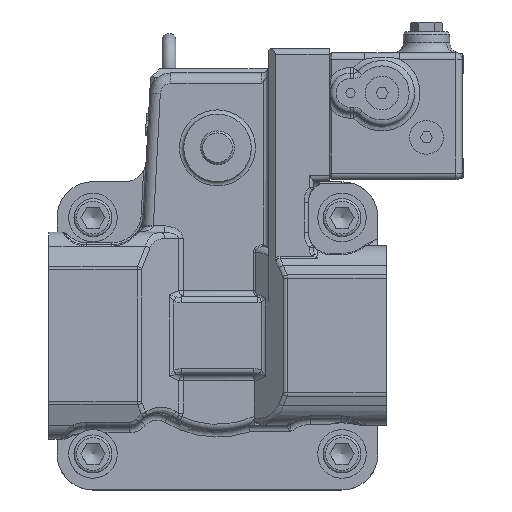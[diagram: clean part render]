
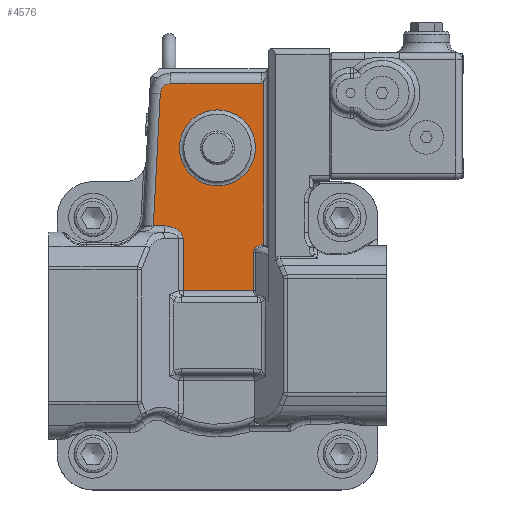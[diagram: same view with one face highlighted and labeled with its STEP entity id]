
A CAD part, top view. The second image highlights one B-rep face of the part: STEP entity #4576.
In plain terms, the highlighted planar face has unit normal (0, 0, 1).
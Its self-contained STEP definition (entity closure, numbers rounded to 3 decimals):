
#4234=CARTESIAN_POINT('',(22.,120.821,209.7));
#4235=VERTEX_POINT('',#4234);
#4251=CARTESIAN_POINT('',(22.,42.917,209.7));
#4252=VERTEX_POINT('',#4251);
#4253=CARTESIAN_POINT('',(22.,120.821,209.7));
#4254=DIRECTION('',(0.0,-1.0,0.0));
#4255=VECTOR('',#4254,77.904);
#4256=LINE('',#4253,#4255);
#4257=EDGE_CURVE('',#4235,#4252,#4256,.T.);
#4452=CARTESIAN_POINT('',(-2.261,42.265,209.7));
#4453=DIRECTION('',(0.0,0.0,1.0));
#4454=DIRECTION('',(1.0,0.0,0.0));
#4455=AXIS2_PLACEMENT_3D('',#4452,#4453,#4454);
#4456=PLANE('',#4455);
#4457=ORIENTED_EDGE('',*,*,#4257,.F.);
#4458=CARTESIAN_POINT('',(21.,119.5,209.7));
#4459=VERTEX_POINT('',#4458);
#4460=CARTESIAN_POINT('',(21.,119.5,209.7));
#4461=CARTESIAN_POINT('',(21.32,119.914,209.7));
#4462=CARTESIAN_POINT('',(21.666,120.358,209.7));
#4463=CARTESIAN_POINT('',(22.,120.821,209.7));
#4464=B_SPLINE_CURVE_WITH_KNOTS('',3,(#4460,#4461,#4462,#4463),.UNSPECIFIED.,.F.,.U.,(4,4),(0.0,0.157),.UNSPECIFIED.);
#4465=EDGE_CURVE('',#4459,#4235,#4464,.T.);
#4466=ORIENTED_EDGE('',*,*,#4465,.F.);
#4467=CARTESIAN_POINT('',(-22.115,119.5,209.7));
#4468=VERTEX_POINT('',#4467);
#4469=CARTESIAN_POINT('',(-22.115,119.5,209.7));
#4470=DIRECTION('',(1.0,0.0,0.0));
#4471=VECTOR('',#4470,43.115);
#4472=LINE('',#4469,#4471);
#4473=EDGE_CURVE('',#4468,#4459,#4472,.T.);
#4474=ORIENTED_EDGE('',*,*,#4473,.F.);
#4475=CARTESIAN_POINT('',(-27.108,114.762,209.7));
#4476=VERTEX_POINT('',#4475);
#4477=CARTESIAN_POINT('',(-22.115,114.5,209.7));
#4478=DIRECTION('',(0.,0.,-1.0));
#4479=DIRECTION('',(-0.688,0.725,0.));
#4480=AXIS2_PLACEMENT_3D('',#4477,#4478,#4479);
#4481=CIRCLE('',#4480,5.0);
#4482=EDGE_CURVE('',#4476,#4468,#4481,.T.);
#4483=ORIENTED_EDGE('',*,*,#4482,.F.);
#4484=CARTESIAN_POINT('',(-30.398,52.,209.7));
#4485=VERTEX_POINT('',#4484);
#4486=CARTESIAN_POINT('',(-30.398,52.,209.7));
#4487=DIRECTION('',(0.052,0.999,0.0));
#4488=VECTOR('',#4487,62.848);
#4489=LINE('',#4486,#4488);
#4490=EDGE_CURVE('',#4485,#4476,#4489,.T.);
#4491=ORIENTED_EDGE('',*,*,#4490,.F.);
#4492=CARTESIAN_POINT('',(-25.116,52.,209.7));
#4493=VERTEX_POINT('',#4492);
#4494=CARTESIAN_POINT('',(-25.116,52.,209.7));
#4495=DIRECTION('',(-1.0,0.0,0.0));
#4496=VECTOR('',#4495,5.282);
#4497=LINE('',#4494,#4496);
#4498=EDGE_CURVE('',#4493,#4485,#4497,.T.);
#4499=ORIENTED_EDGE('',*,*,#4498,.F.);
#4500=CARTESIAN_POINT('',(-16.318,46.,209.7));
#4501=VERTEX_POINT('',#4500);
#4502=CARTESIAN_POINT('',(-25.116,46.,209.7));
#4503=DIRECTION('',(0.0,0.0,1.0));
#4504=DIRECTION('',(1.0,0.0,0.0));
#4505=AXIS2_PLACEMENT_3D('',#4502,#4503,#4504);
#4506=ELLIPSE('',#4505,8.798,6.);
#4507=EDGE_CURVE('',#4501,#4493,#4506,.T.);
#4508=ORIENTED_EDGE('',*,*,#4507,.F.);
#4509=CARTESIAN_POINT('',(-16.318,21.354,209.7));
#4510=VERTEX_POINT('',#4509);
#4511=CARTESIAN_POINT('',(-16.318,21.354,209.7));
#4512=DIRECTION('',(0.0,1.0,0.0));
#4513=VECTOR('',#4512,24.646);
#4514=LINE('',#4511,#4513);
#4515=EDGE_CURVE('',#4510,#4501,#4514,.T.);
#4516=ORIENTED_EDGE('',*,*,#4515,.F.);
#4517=CARTESIAN_POINT('',(17.116,21.354,209.7));
#4518=VERTEX_POINT('',#4517);
#4519=CARTESIAN_POINT('',(17.116,21.354,209.7));
#4520=DIRECTION('',(-1.0,0.0,0.0));
#4521=VECTOR('',#4520,33.434);
#4522=LINE('',#4519,#4521);
#4523=EDGE_CURVE('',#4518,#4510,#4522,.T.);
#4524=ORIENTED_EDGE('',*,*,#4523,.F.);
#4525=CARTESIAN_POINT('',(17.116,39.499,209.7));
#4526=VERTEX_POINT('',#4525);
#4527=CARTESIAN_POINT('',(17.116,39.499,209.7));
#4528=DIRECTION('',(0.0,-1.0,0.0));
#4529=VECTOR('',#4528,18.145);
#4530=LINE('',#4527,#4529);
#4531=EDGE_CURVE('',#4526,#4518,#4530,.T.);
#4532=ORIENTED_EDGE('',*,*,#4531,.F.);
#4533=CARTESIAN_POINT('',(21.,43.082,209.7));
#4534=VERTEX_POINT('',#4533);
#4535=CARTESIAN_POINT('',(21.,43.082,209.7));
#4536=CARTESIAN_POINT('',(20.285,42.959,209.7));
#4537=CARTESIAN_POINT('',(19.024,42.526,209.7));
#4538=CARTESIAN_POINT('',(17.539,41.253,209.7));
#4539=CARTESIAN_POINT('',(17.116,40.089,209.7));
#4540=CARTESIAN_POINT('',(17.116,39.499,209.7));
#4541=B_SPLINE_CURVE_WITH_KNOTS('',3,(#4535,#4536,#4537,#4538,#4539,#4540),.UNSPECIFIED.,.F.,.U.,(4,1,1,4),(-0.57,-0.354,-0.177,0.),.UNSPECIFIED.);
#4542=EDGE_CURVE('',#4534,#4526,#4541,.T.);
#4543=ORIENTED_EDGE('',*,*,#4542,.F.);
#4544=CARTESIAN_POINT('',(21.481,43.146,209.7));
#4545=VERTEX_POINT('',#4544);
#4546=CARTESIAN_POINT('',(21.481,43.146,209.7));
#4547=CARTESIAN_POINT('',(21.32,43.13,209.7));
#4548=CARTESIAN_POINT('',(21.159,43.109,209.7));
#4549=CARTESIAN_POINT('',(21.,43.082,209.7));
#4550=B_SPLINE_CURVE_WITH_KNOTS('',3,(#4546,#4547,#4548,#4549),.UNSPECIFIED.,.F.,.U.,(4,4),(-0.619,-0.57),.UNSPECIFIED.);
#4551=EDGE_CURVE('',#4545,#4534,#4550,.T.);
#4552=ORIENTED_EDGE('',*,*,#4551,.F.);
#4553=CARTESIAN_POINT('',(22.,42.917,209.7));
#4554=CARTESIAN_POINT('',(21.919,42.955,209.7));
#4555=CARTESIAN_POINT('',(21.837,42.991,209.7));
#4556=CARTESIAN_POINT('',(21.755,43.028,209.7));
#4557=CARTESIAN_POINT('',(21.664,43.068,209.7));
#4558=CARTESIAN_POINT('',(21.573,43.107,209.7));
#4559=CARTESIAN_POINT('',(21.481,43.146,209.7));
#4560=B_SPLINE_CURVE_WITH_KNOTS('',3,(#4553,#4554,#4555,#4556,#4557,#4558,#4559),.UNSPECIFIED.,.F.,.U.,(4,3,4),(-0.056,-0.029,0.001),.UNSPECIFIED.);
#4561=EDGE_CURVE('',#4252,#4545,#4560,.T.);
#4562=ORIENTED_EDGE('',*,*,#4561,.F.);
#4563=EDGE_LOOP('',(#4457,#4466,#4474,#4483,#4491,#4499,#4508,#4516,#4524,#4532,#4543,#4552,#4562));
#4564=FACE_OUTER_BOUND('',#4563,.T.);
#4565=CARTESIAN_POINT('',(18.,89.,209.7));
#4566=VERTEX_POINT('',#4565);
#4567=CARTESIAN_POINT('',(0.,89.,209.7));
#4568=DIRECTION('',(0.0,0.0,1.0));
#4569=DIRECTION('',(-1.0,0.0,0.0));
#4570=AXIS2_PLACEMENT_3D('',#4567,#4568,#4569);
#4571=CIRCLE('',#4570,18.0);
#4572=EDGE_CURVE('',#4566,#4566,#4571,.T.);
#4573=ORIENTED_EDGE('',*,*,#4572,.F.);
#4574=EDGE_LOOP('',(#4573));
#4575=FACE_BOUND('',#4574,.T.);
#4576=ADVANCED_FACE('',(#4564,#4575),#4456,.T.);
